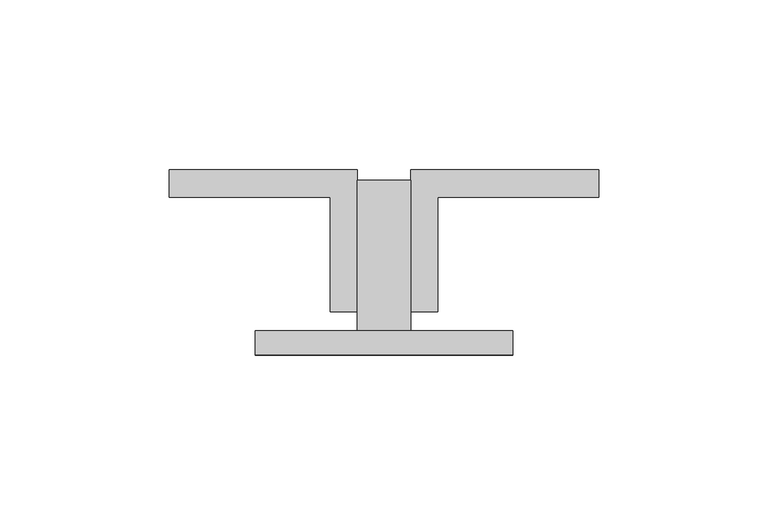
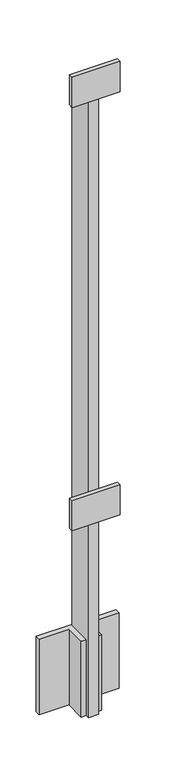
"""IFC4 building model written with IfcOpenShell, lengths in millimetres: proxy geometry, Baluster-End-Post-VIVA-STRUC-Top Mount : WELDED Fascia MOUNT STRUC_STRAIGHT."""

from ifc_helpers import new_model, si_unit, frame, origin, place, context, project, spatial, polyline, outline, extrude, source, transform, mapped, element, save


def building_element_proxy_f0dd287b(model_context):
    return source(origin(), model_context, "Body", "SweptSolid", [
        extrude(outline(polyline([(58.9780808, -126.6869934), (58.9780808, -119.5749934), (135.1795192, -119.5749934), (135.1795192, -126.6869934), (58.9780808, -126.6869934)])), frame((0.0, 0.0, 824.3906928), z_axis=(0.0, 0.0, 1.0), x_axis=(1.0, 0.0, 0.0)), (0.0, 0.0, 1.0), 50.8),
        extrude(outline(polyline([(58.9780808, -126.6869934), (58.9780808, -119.5749934), (135.1795192, -119.5749934), (135.1795192, -126.6869934), (58.9780808, -126.6869934)])), frame((0.0, 0.0, 113.1906928), z_axis=(0.0, 0.0, 1.0), x_axis=(1.0, 0.0, 0.0)), (0.0, 0.0, 1.0), 50.8),
        extrude(outline(polyline([(89.1413, -113.7143584), (81.1403, -113.7143584), (81.1403, -79.9323584), (33.5807784, -79.9323584), (33.5807784, -71.8043584), (89.1413, -71.8043584), (89.1413, -113.7143584)])), frame((0.0, 0.0, -215.4091072), z_axis=(0.0, 0.0, 1.0), x_axis=(1.0, 0.0, 0.0)), (0.0, 0.0, 1.0), 127.0),
        extrude(outline(polyline([(105.0163, -113.7143584), (105.0163, -71.8043584), (160.5768216, -71.8043584), (160.5768216, -79.9323584), (113.0173, -79.9323584), (113.0173, -113.7143584), (105.0163, -113.7143584)])), frame((0.0, 0.0, -215.4091072), z_axis=(0.0, 0.0, 1.0), x_axis=(1.0, 0.0, 0.0)), (0.0, 0.0, 1.0), 127.0),
        extrude(outline(polyline([(89.1413, -119.5749934), (89.1413, -75.1249934), (105.0163, -75.1249934), (105.0163, -119.5749934), (89.1413, -119.5749934)])), frame((0.0, 0.0, -215.4091072), z_axis=(0.0, 0.0, 1.0), x_axis=(1.0, 0.0, 0.0)), (0.0, 0.0, 1.0), 1047.1829072),
    ])


if __name__ == "__main__":
    model = new_model("IFC4")
    model_context = context("Model", 3, world=origin())
    ifc_project = project(units=[si_unit("LENGTHUNIT", "METRE", prefix="MILLI")], contexts=[model_context])
    site = spatial("IfcSite", under=ifc_project)
    building = spatial("IfcBuilding", under=site)
    placement = place(None, origin())
    building_element_proxy_shape = building_element_proxy_f0dd287b(model_context)
    element("IfcBuildingElementProxy", 1, Name="Baluster-End-Post-VIVA-STRUC-Top Mount : WELDED Fascia MOUNT STRUC_STRAIGHT", ObjectType="Baluster-End-Post-VIVA-STRUC-Top Mount : WELDED Fascia MOUNT STRUC_STRAIGHT", at=placement, inside=building, context=model_context, shape_type="MappedRepresentation", body=[
        mapped(building_element_proxy_shape, transform((0.0, 0.0, 0.0), x_axis=(1.0, 0.0, 0.0), y_axis=(0.0, 1.0, 0.0), z_axis=(0.0, 0.0, 1.0))),
    ])
    save(model, "model.ifc")
